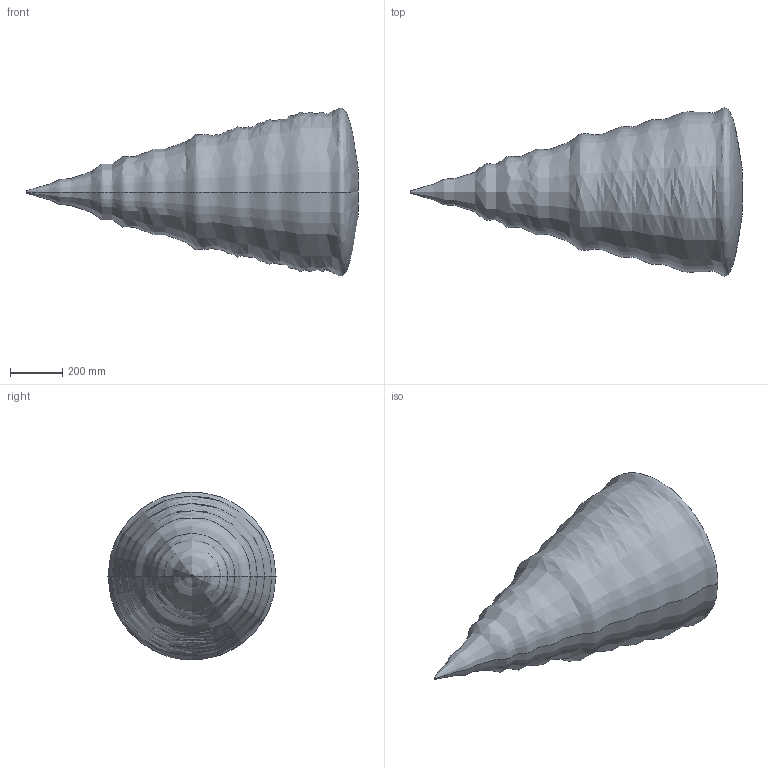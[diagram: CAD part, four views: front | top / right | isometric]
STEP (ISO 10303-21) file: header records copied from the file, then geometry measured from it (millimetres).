
FILE_DESCRIPTION (( 'STEP AP203' ), '1' );
FILE_NAME ('Schallfeld pms+100 Platte.STEP', '2024-06-10T09:53:26', ( '' ), ( '' ), 'SwSTEP 2.0', 'SolidWorks 2024', '' );
FILE_SCHEMA (( 'CONFIG_CONTROL_DESIGN' ));
Length unit declared in the file: millimetre
Products named in the file (1): Schallfeld pms+100 Platte
Bounding box: 1270 x 642.76 x 642.16 mm (x, y, z)
Volume: 172399498.4 mm3; surface area: 1802004.6 mm2
Topology: 1 solids, 1 shells, 4 faces, 6 edges, 4 vertices
Faces by surface type: bspline 2, plane 2
Entity records: 495 total; most frequent: CARTESIAN_POINT 351, DIRECTION 14, ORIENTED_EDGE 12, PERSON_AND_ORGANIZATION 8, AXIS2_PLACEMENT_3D 7, EDGE_CURVE 6, CC_DESIGN_PERSON_AND_ORGANIZATION_ASSIGNMENT 5, DATE_AND_TIME 5
